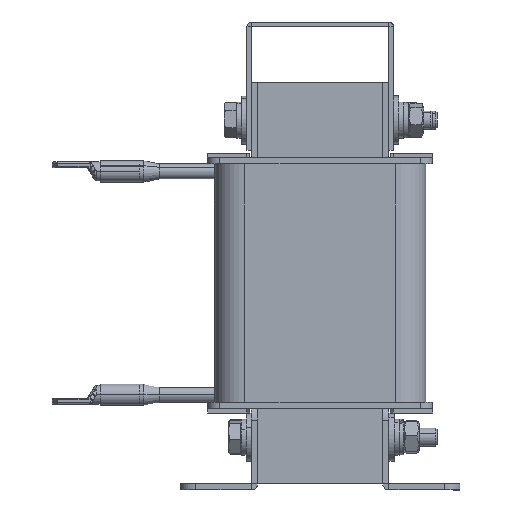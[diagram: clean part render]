
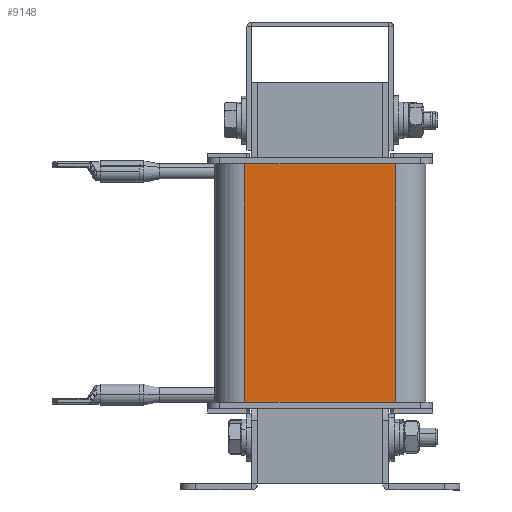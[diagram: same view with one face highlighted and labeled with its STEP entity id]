
A CAD part, left-side view. The second image highlights one B-rep face of the part: STEP entity #9148.
In plain terms, the highlighted planar face has unit normal (-1, 0, 0).
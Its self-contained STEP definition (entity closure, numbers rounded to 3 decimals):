
#186 = ORIENTED_EDGE ( 'NONE', *, *, #4704, .T. ) ;
#581 = DIRECTION ( 'NONE',  ( 0., 0., 1. ) ) ;
#874 = ORIENTED_EDGE ( 'NONE', *, *, #9157, .T. ) ;
#1354 = PLANE ( 'NONE',  #8845 ) ;
#1603 = EDGE_CURVE ( 'NONE', #5166, #10769, #13022, .T. ) ;
#1660 = CARTESIAN_POINT ( 'NONE',  ( -22.5, 35., -79. ) ) ;
#2662 = DIRECTION ( 'NONE',  ( -1., 0., 0. ) ) ;
#3006 = CARTESIAN_POINT ( 'NONE',  ( -22.5, 25., 0. ) ) ;
#3129 = CARTESIAN_POINT ( 'NONE',  ( -22.5, 25., -79. ) ) ;
#3607 = CARTESIAN_POINT ( 'NONE',  ( -22.5, 25., -79. ) ) ;
#3739 = LINE ( 'NONE', #10496, #12801 ) ;
#3808 = DIRECTION ( 'NONE',  ( 0., 0., 1. ) ) ;
#4704 = EDGE_CURVE ( 'NONE', #10769, #12571, #6163, .T. ) ;
#5166 = VERTEX_POINT ( 'NONE', #3006 ) ;
#5775 = CARTESIAN_POINT ( 'NONE',  ( -22.5, 35., -79. ) ) ;
#6163 = LINE ( 'NONE', #1660, #13000 ) ;
#6442 = EDGE_LOOP ( 'NONE', ( #8264, #7410, #186, #874 ) ) ;
#6560 = VECTOR ( 'NONE', #8432, 1000. ) ;
#7410 = ORIENTED_EDGE ( 'NONE', *, *, #1603, .T. ) ;
#8264 = ORIENTED_EDGE ( 'NONE', *, *, #10261, .F. ) ;
#8291 = VECTOR ( 'NONE', #12008, 1000. ) ;
#8432 = DIRECTION ( 'NONE',  ( 0., -1., 0. ) ) ;
#8845 = AXIS2_PLACEMENT_3D ( 'NONE', #5775, #2662, #3808 ) ;
#9148 = ADVANCED_FACE ( 'NONE', ( #13713 ), #1354, .T. ) ;
#9157 = EDGE_CURVE ( 'NONE', #12571, #11209, #3739, .T. ) ;
#10259 = CARTESIAN_POINT ( 'NONE',  ( -22.5, -25., -79. ) ) ;
#10261 = EDGE_CURVE ( 'NONE', #5166, #11209, #11636, .T. ) ;
#10496 = CARTESIAN_POINT ( 'NONE',  ( -22.5, -25., -79. ) ) ;
#10769 = VERTEX_POINT ( 'NONE', #3607 ) ;
#11209 = VERTEX_POINT ( 'NONE', #13283 ) ;
#11636 = LINE ( 'NONE', #11783, #6560 ) ;
#11690 = DIRECTION ( 'NONE',  ( 0., -1., 0. ) ) ;
#11783 = CARTESIAN_POINT ( 'NONE',  ( -22.5, 35., 0. ) ) ;
#12008 = DIRECTION ( 'NONE',  ( 0., 0., -1. ) ) ;
#12571 = VERTEX_POINT ( 'NONE', #10259 ) ;
#12801 = VECTOR ( 'NONE', #581, 1000. ) ;
#13000 = VECTOR ( 'NONE', #11690, 1000. ) ;
#13022 = LINE ( 'NONE', #3129, #8291 ) ;
#13283 = CARTESIAN_POINT ( 'NONE',  ( -22.5, -25., 0. ) ) ;
#13713 = FACE_OUTER_BOUND ( 'NONE', #6442, .T. ) ;
